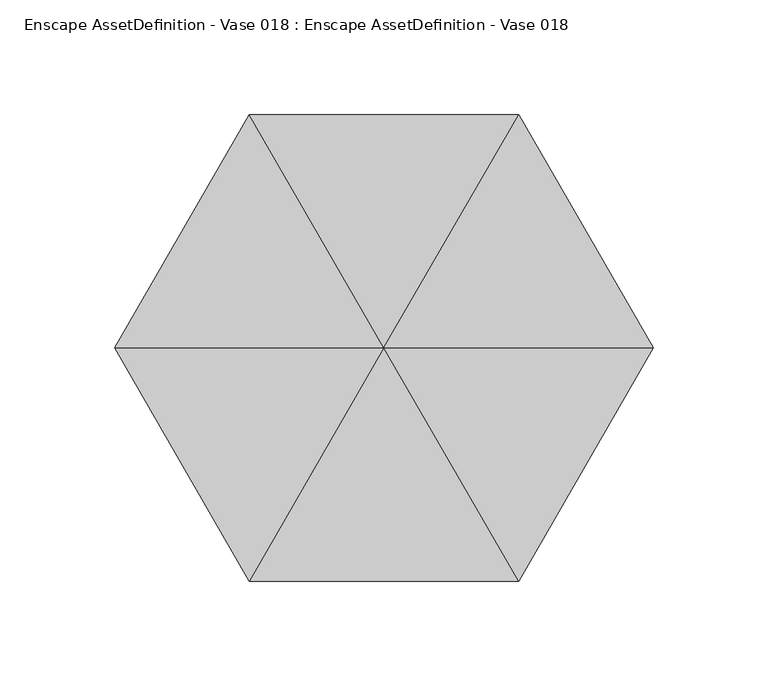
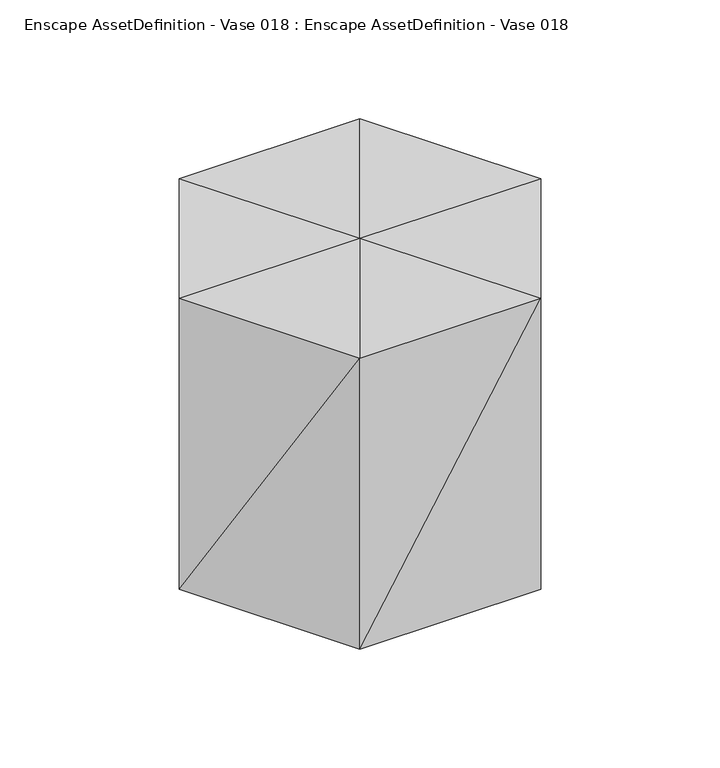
"""IFC4 building model written with IfcOpenShell, lengths in millimetres: geographic element geometry, Enscape AssetDefinition - Vase 018 : Enscape AssetDefinition - Vase 018."""

from ifc_helpers import new_model, si_unit, origin, place, context, project, spatial, faceted_brep, source, transform, mapped, element, save


def enscape_assetdefinition_vase_018_enscape_assetdefinition_db3e343f(model_context):
    return source(origin(), model_context, "Body", "Brep", [
        faceted_brep([(117.3455045, 0.2557053, 200.0000179), (117.3455045, 0.2557054, 0.0), (58.6551093, 101.9104421, 200.0000179), (-0.0352859, 0.2557031, 0.0), (58.6551018, 101.9104496, 0.0), (58.6550981, -101.3990343, 0.0), (-58.7256812, 101.9104347, 200.0000179), (-0.0352859, 0.2556996, 200.0000179), (58.6551018, -101.3990417, 200.000003), (-58.7256625, -101.3990343, 0.0), (-58.7256812, 101.9104421, 0.0), (-117.4160615, 0.2556951, 0.0), (-117.4160615, 0.255695, 200.0000179), (-58.7256625, -101.3990417, 200.000003)], [[[0, 1, 2]], [[3, 4, 1]], [[3, 1, 5]], [[2, 1, 4]], [[0, 5, 1]], [[2, 4, 6]], [[7, 0, 2]], [[7, 2, 6]], [[8, 5, 0]], [[7, 8, 0]], [[3, 5, 9]], [[8, 9, 5]], [[3, 10, 4]], [[3, 11, 10]], [[3, 9, 11]], [[6, 4, 10]], [[6, 10, 12]], [[7, 6, 12]], [[7, 12, 13]], [[7, 13, 8]], [[13, 9, 8]], [[13, 11, 9]], [[12, 11, 13]], [[12, 10, 11]]]),
    ])


if __name__ == "__main__":
    model = new_model("IFC4")
    model_context = context("Model", 3, world=origin())
    ifc_project = project(units=[si_unit("LENGTHUNIT", "METRE", prefix="MILLI")], contexts=[model_context])
    site = spatial("IfcSite", under=ifc_project)
    building = spatial("IfcBuilding", under=site)
    placement = place(None, origin())
    enscape_assetdefinition_vase_018_enscape_assetdefinition_shape = enscape_assetdefinition_vase_018_enscape_assetdefinition_db3e343f(model_context)
    element("IfcGeographicElement", 1, ObjectType="Enscape AssetDefinition - Vase 018 : Enscape AssetDefinition - Vase 018", at=placement, inside=building, context=model_context, shape_type="MappedRepresentation", body=[
        mapped(enscape_assetdefinition_vase_018_enscape_assetdefinition_shape, transform((0.0, 0.0, 0.0), x_axis=(1.0, 0.0, 0.0), y_axis=(0.0, 1.0, 0.0), z_axis=(0.0, 0.0, 1.0))),
    ])
    save(model, "model.ifc")
